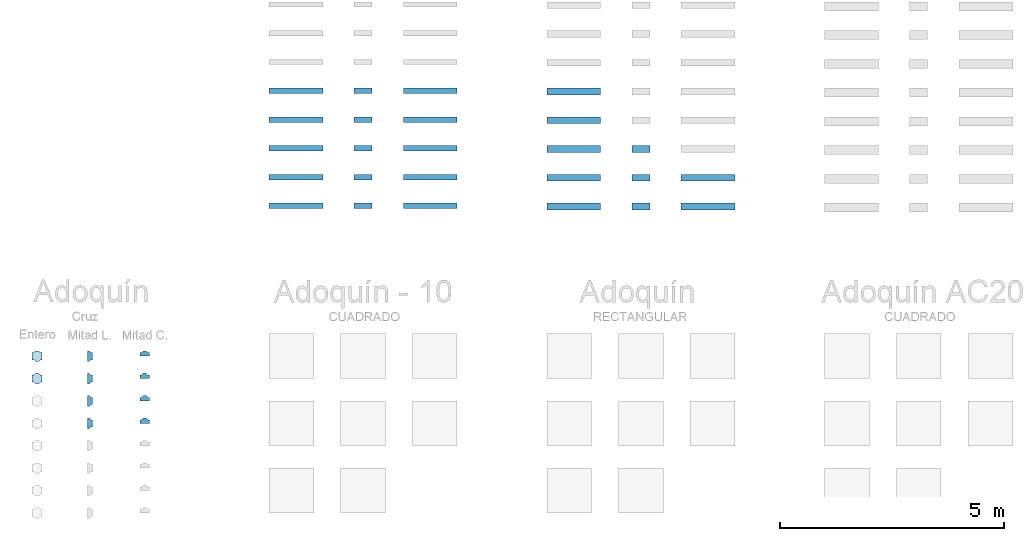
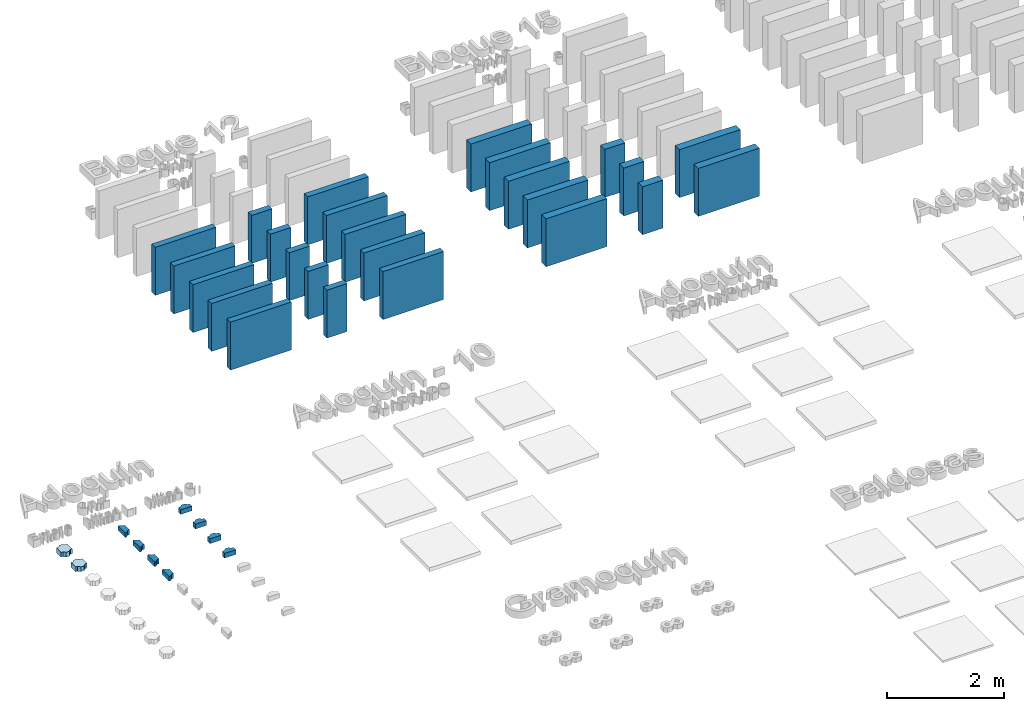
# One storey, part 3 of 19: 25 walls, 10 slabs.
"""IFC2X3 building model written with IfcOpenShell, lengths in metres."""

from ifc_helpers import new_model, entity, si_unit, converted_unit, derived_unit, direction, frame, frame_2d, origin, place, context, subcontext, project, spatial, polyline, rectangle, outline, extrude, material, layer, layer_set, layer_usage, type_object, element, save


model = new_model("IFC2X3")

# Units and contexts
model_context = context("Model", 3, precision=1e-05, world=origin(), true_north=direction((6.12303176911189e-17, 1.0)))
body_context = subcontext(model_context, "Body", "Model", "MODEL_VIEW")
ifc_project = project(units=[si_unit("LENGTHUNIT", "METRE"), si_unit("AREAUNIT", "SQUARE_METRE"), si_unit("VOLUMEUNIT", "CUBIC_METRE"), converted_unit("PLANEANGLEUNIT", "DEGREE", entity("IfcRatioMeasure", 0.0174532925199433), si_unit("PLANEANGLEUNIT", "RADIAN"), dimensions=[0, 0, 0, 0, 0, 0, 0]), si_unit("MASSUNIT", "GRAM", prefix="KILO"), derived_unit("MASSDENSITYUNIT", [(si_unit("MASSUNIT", "GRAM", prefix="KILO"), 1), (si_unit("LENGTHUNIT", "METRE"), -3)]), derived_unit("MOMENTOFINERTIAUNIT", [(si_unit("LENGTHUNIT", "METRE"), 4)]), si_unit("TIMEUNIT", "SECOND"), si_unit("FREQUENCYUNIT", "HERTZ"), si_unit("THERMODYNAMICTEMPERATUREUNIT", "DEGREE_CELSIUS"), derived_unit("THERMALTRANSMITTANCEUNIT", [(si_unit("MASSUNIT", "GRAM", prefix="KILO"), 1), (si_unit("THERMODYNAMICTEMPERATUREUNIT", "KELVIN"), -1), (si_unit("TIMEUNIT", "SECOND"), -3)]), derived_unit("VOLUMETRICFLOWRATEUNIT", [(si_unit("LENGTHUNIT", "METRE"), 3), (si_unit("TIMEUNIT", "SECOND"), -1)]), si_unit("ELECTRICCURRENTUNIT", "AMPERE"), si_unit("ELECTRICVOLTAGEUNIT", "VOLT"), si_unit("POWERUNIT", "WATT"), si_unit("FORCEUNIT", "NEWTON", prefix="KILO"), si_unit("ILLUMINANCEUNIT", "LUX"), si_unit("LUMINOUSFLUXUNIT", "LUMEN"), si_unit("LUMINOUSINTENSITYUNIT", "CANDELA"), derived_unit("USERDEFINED", [(si_unit("MASSUNIT", "GRAM", prefix="KILO"), -1), (si_unit("LENGTHUNIT", "METRE"), -2), (si_unit("TIMEUNIT", "SECOND"), 3), (si_unit("LUMINOUSFLUXUNIT", "LUMEN"), 1)]), derived_unit("LINEARVELOCITYUNIT", [(si_unit("LENGTHUNIT", "METRE"), 1), (si_unit("TIMEUNIT", "SECOND"), -1)]), si_unit("PRESSUREUNIT", "PASCAL"), derived_unit("USERDEFINED", [(si_unit("LENGTHUNIT", "METRE"), -2), (si_unit("MASSUNIT", "GRAM", prefix="KILO"), 1), (si_unit("TIMEUNIT", "SECOND"), -2)]), derived_unit("LINEARFORCEUNIT", [(si_unit("MASSUNIT", "GRAM", prefix="KILO"), 1), (si_unit("LENGTHUNIT", "METRE"), 1), (si_unit("TIMEUNIT", "SECOND"), -2), (si_unit("LENGTHUNIT", "METRE"), -1)]), derived_unit("PLANARFORCEUNIT", [(si_unit("MASSUNIT", "GRAM", prefix="KILO"), 1), (si_unit("LENGTHUNIT", "METRE"), 1), (si_unit("TIMEUNIT", "SECOND"), -2), (si_unit("LENGTHUNIT", "METRE"), -2)])], contexts=[model_context])

# Site, building, storey
site_placement = place(None, origin())
site = spatial("IfcSite", under=ifc_project, at=site_placement, Name="Default", CompositionType="ELEMENT")
building_placement = place(site_placement, origin())
building = spatial("IfcBuilding", under=site, at=building_placement, CompositionType="ELEMENT")
storey_placement = place(building_placement, origin())
storey = spatial("IfcBuildingStorey", under=building, at=storey_placement, Name="Nivel 1", CompositionType="ELEMENT", Elevation=0.0)

# Slabs
ifc_material_1 = material(Name="Adoquín Cruz - Natural")
slab_type_1 = type_object("IfcSlabType", Name="Gramoquín8:Gramoquín", PredefinedType="FLOOR", material=ifc_material_1)
slab_1_placement = place(storey_placement, origin())
element("IfcSlab", 1, at=slab_1_placement, inside=storey, type_object=slab_type_1, Name="Gramoquín8:Gramoquín", ObjectType="Gramoquín8:Gramoquín", PredefinedType="FLOOR", context=body_context, shape_type="SweptSolid", body=[
    extrude(outline(polyline([(-0.0800000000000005, -0.110000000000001), (0.0799999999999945, -0.110000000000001), (0.0799999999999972, -0.0725000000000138), (0.120000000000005, -0.0325000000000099), (0.120000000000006, 0.0325000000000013), (0.0800000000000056, 0.0725000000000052), (0.0800000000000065, 0.109999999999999), (-0.0800000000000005, 0.110000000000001), (-0.0800000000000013, 0.0725000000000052), (-0.120000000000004, 0.0325000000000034), (-0.120000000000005, -0.0325000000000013), (-0.0800000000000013, -0.0725000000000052), (-0.0800000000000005, -0.110000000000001)])), frame((-10.6243147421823, 1.71277312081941, 0.0), z_axis=(0.0, 0.0, 1.0), x_axis=(0.0, -1.0, 0.0)), (0.0, 0.0, 1.0), 0.1),
])
ifc_material_2 = material(Name="Adoquín Cruz - Rosado")
slab_type_2 = type_object("IfcSlabType", Name="Gramoquín9:Gramoquín", PredefinedType="FLOOR", material=ifc_material_2)
slab_2_placement = place(storey_placement, origin())
element("IfcSlab", 2, at=slab_2_placement, inside=storey, type_object=slab_type_2, Name="Gramoquín9:Gramoquín", ObjectType="Gramoquín9:Gramoquín", PredefinedType="FLOOR", context=body_context, shape_type="SweptSolid", body=[
    extrude(outline(polyline([(-0.0800000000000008, -0.110000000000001), (0.0799999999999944, -0.110000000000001), (0.079999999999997, -0.0725000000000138), (0.120000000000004, -0.0325000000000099), (0.120000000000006, 0.0325000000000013), (0.0800000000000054, 0.0725000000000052), (0.0800000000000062, 0.109999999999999), (-0.0800000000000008, 0.110000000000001), (-0.0800000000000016, 0.0725000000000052), (-0.120000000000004, 0.0325000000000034), (-0.120000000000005, -0.0325000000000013), (-0.0800000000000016, -0.0725000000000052), (-0.0800000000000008, -0.110000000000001)])), frame((-10.6243147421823, 1.21277312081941, 0.0), z_axis=(0.0, 0.0, 1.0), x_axis=(0.0, -1.0, 0.0)), (0.0, 0.0, 1.0), 0.1),
])
slab_type_3 = type_object("IfcSlabType", Name="Gramoquín16:Gramoquín", PredefinedType="FLOOR", material=ifc_material_1)
slab_3_placement = place(storey_placement, origin())
element("IfcSlab", 3, at=slab_3_placement, inside=storey, type_object=slab_type_3, Name="Gramoquín16:Gramoquín", ObjectType="Gramoquín16:Gramoquín", PredefinedType="FLOOR", context=body_context, shape_type="SweptSolid", body=[
    extrude(outline(polyline([(-0.0800000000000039, -0.0562499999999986), (0.080000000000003, -0.0562499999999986), (0.0800000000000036, -0.0187500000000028), (0.120000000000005, 0.0212499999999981), (0.120000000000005, 0.0537500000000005), (-0.120000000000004, 0.053750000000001), (-0.120000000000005, 0.0212499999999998), (-0.0800000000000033, -0.0187500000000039), (-0.0800000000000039, -0.0562499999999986)])), frame((-9.44048319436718, 1.71277312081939, 0.0), z_axis=(0.0, 0.0, 1.0), x_axis=(0.0, 1.0, 0.0)), (0.0, 0.0, 1.0), 0.1),
])
slab_type_4 = type_object("IfcSlabType", Name="Gramoquín24:Gramoquín", PredefinedType="FLOOR", material=ifc_material_1)
slab_4_placement = place(storey_placement, origin())
element("IfcSlab", 4, at=slab_4_placement, inside=storey, type_object=slab_type_4, Name="Gramoquín24:Gramoquín", ObjectType="Gramoquín24:Gramoquín", PredefinedType="FLOOR", context=body_context, shape_type="SweptSolid", body=[
    extrude(outline(polyline([(-0.00999999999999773, -0.110000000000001), (0.0699999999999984, -0.110000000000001), (0.0699999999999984, 0.11), (-0.00999999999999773, 0.11), (-0.00999999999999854, 0.0725000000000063), (-0.0500000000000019, 0.0325000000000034), (-0.0500000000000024, -0.0325000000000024), (-0.00999999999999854, -0.0725000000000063), (-0.00999999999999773, -0.110000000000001)])), frame((-8.2215804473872, 1.78277312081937, 0.0), z_axis=(0.0, 0.0, 1.0), x_axis=(0.0, -1.0, 0.0)), (0.0, 0.0, 1.0), 0.1),
])
slab_type_5 = type_object("IfcSlabType", Name="Gramoquín17:Gramoquín", PredefinedType="FLOOR", material=ifc_material_2)
slab_5_placement = place(storey_placement, origin())
element("IfcSlab", 5, at=slab_5_placement, inside=storey, type_object=slab_type_5, Name="Gramoquín17:Gramoquín", ObjectType="Gramoquín17:Gramoquín", PredefinedType="FLOOR", context=body_context, shape_type="SweptSolid", body=[
    extrude(outline(polyline([(-0.0800000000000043, -0.0562499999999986), (0.0800000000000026, -0.0562499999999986), (0.0800000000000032, -0.0187500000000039), (0.120000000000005, 0.0212499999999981), (0.120000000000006, 0.0537500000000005), (-0.120000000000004, 0.053750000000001), (-0.120000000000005, 0.0212499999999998), (-0.0800000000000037, -0.0187500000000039), (-0.0800000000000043, -0.0562499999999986)])), frame((-9.44048319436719, 1.21277312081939, 0.0), z_axis=(0.0, 0.0, 1.0), x_axis=(0.0, 1.0, 0.0)), (0.0, 0.0, 1.0), 0.1),
])
ifc_material_3 = material(Name="Adoquín Cruz - Rojo")
slab_type_6 = type_object("IfcSlabType", Name="Gramoquín18:Gramoquín", PredefinedType="FLOOR", material=ifc_material_3)
slab_6_placement = place(storey_placement, origin())
element("IfcSlab", 6, at=slab_6_placement, inside=storey, type_object=slab_type_6, Name="Gramoquín18:Gramoquín", ObjectType="Gramoquín18:Gramoquín", PredefinedType="FLOOR", context=body_context, shape_type="SweptSolid", body=[
    extrude(outline(polyline([(-0.0800000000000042, -0.0562499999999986), (0.0800000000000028, -0.0562499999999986), (0.0800000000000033, -0.0187500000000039), (0.120000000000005, 0.0212499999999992), (0.120000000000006, 0.0537500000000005), (-0.120000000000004, 0.053750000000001), (-0.120000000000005, 0.0212499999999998), (-0.0800000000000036, -0.0187500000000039), (-0.0800000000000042, -0.0562499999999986)])), frame((-9.44048319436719, 0.712773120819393, 0.0), z_axis=(0.0, 0.0, 1.0), x_axis=(0.0, 1.0, 0.0)), (0.0, 0.0, 1.0), 0.1),
])
ifc_material_4 = material(Name="Adoquín Cruz - Adobe")
slab_type_7 = type_object("IfcSlabType", Name="Gramoquín19:Gramoquín", PredefinedType="FLOOR", material=ifc_material_4)
slab_7_placement = place(storey_placement, origin())
element("IfcSlab", 7, at=slab_7_placement, inside=storey, type_object=slab_type_7, Name="Gramoquín19:Gramoquín", ObjectType="Gramoquín19:Gramoquín", PredefinedType="FLOOR", context=body_context, shape_type="SweptSolid", body=[
    extrude(outline(polyline([(-0.0800000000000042, -0.0562499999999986), (0.0800000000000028, -0.0562499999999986), (0.0800000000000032, -0.0187500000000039), (0.120000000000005, 0.0212499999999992), (0.120000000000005, 0.0537500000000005), (-0.120000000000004, 0.053750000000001), (-0.120000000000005, 0.0212499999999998), (-0.0800000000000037, -0.0187500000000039), (-0.0800000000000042, -0.0562499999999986)])), frame((-9.4404831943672, 0.212773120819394, 0.0), z_axis=(0.0, 0.0, 1.0), x_axis=(0.0, 1.0, 0.0)), (0.0, 0.0, 1.0), 0.1),
])
slab_type_8 = type_object("IfcSlabType", Name="Gramoquín25:Gramoquín", PredefinedType="FLOOR", material=ifc_material_2)
slab_8_placement = place(storey_placement, origin())
element("IfcSlab", 8, at=slab_8_placement, inside=storey, type_object=slab_type_8, Name="Gramoquín25:Gramoquín", ObjectType="Gramoquín25:Gramoquín", PredefinedType="FLOOR", context=body_context, shape_type="SweptSolid", body=[
    extrude(outline(polyline([(-0.00999999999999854, -0.110000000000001), (0.0699999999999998, -0.110000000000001), (0.0699999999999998, 0.11), (-0.00999999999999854, 0.11), (-0.00999999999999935, 0.0725000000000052), (-0.0500000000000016, 0.0325000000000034), (-0.0500000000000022, -0.0325000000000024), (-0.00999999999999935, -0.0725000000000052), (-0.00999999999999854, -0.110000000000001)])), frame((-8.22158044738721, 1.28277312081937, 0.0), z_axis=(0.0, 0.0, 1.0), x_axis=(0.0, -1.0, 0.0)), (0.0, 0.0, 1.0), 0.1),
])
slab_type_9 = type_object("IfcSlabType", Name="Gramoquín26:Gramoquín", PredefinedType="FLOOR", material=ifc_material_3)
slab_9_placement = place(storey_placement, origin())
element("IfcSlab", 9, at=slab_9_placement, inside=storey, type_object=slab_type_9, Name="Gramoquín26:Gramoquín", ObjectType="Gramoquín26:Gramoquín", PredefinedType="FLOOR", context=body_context, shape_type="SweptSolid", body=[
    extrude(outline(polyline([(-0.00999999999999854, -0.110000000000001), (0.0699999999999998, -0.110000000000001), (0.0699999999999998, 0.11), (-0.00999999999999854, 0.11), (-0.00999999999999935, 0.0725000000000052), (-0.0500000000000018, 0.0325000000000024), (-0.0500000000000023, -0.0325000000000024), (-0.00999999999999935, -0.0725000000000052), (-0.00999999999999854, -0.110000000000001)])), frame((-8.22158044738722, 0.782773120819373, 0.0), z_axis=(0.0, 0.0, 1.0), x_axis=(0.0, -1.0, 0.0)), (0.0, 0.0, 1.0), 0.1),
])
slab_type_10 = type_object("IfcSlabType", Name="Gramoquín27:Gramoquín", PredefinedType="FLOOR", material=ifc_material_4)
slab_10_placement = place(storey_placement, origin())
element("IfcSlab", 10, at=slab_10_placement, inside=storey, type_object=slab_type_10, Name="Gramoquín27:Gramoquín", ObjectType="Gramoquín27:Gramoquín", PredefinedType="FLOOR", context=body_context, shape_type="SweptSolid", body=[
    extrude(outline(polyline([(-0.00999999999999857, -0.110000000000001), (0.0699999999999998, -0.110000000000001), (0.0699999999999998, 0.11), (-0.00999999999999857, 0.11), (-0.00999999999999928, 0.0725000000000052), (-0.0500000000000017, 0.0325000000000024), (-0.0500000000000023, -0.0325000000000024), (-0.00999999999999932, -0.0725000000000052), (-0.00999999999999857, -0.110000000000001)])), frame((-8.22158044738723, 0.282773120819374, 0.0), z_axis=(0.0, 0.0, 1.0), x_axis=(0.0, -1.0, 0.0)), (0.0, 0.0, 1.0), 0.1),
])

# Walls
ifc_material_5 = material(Name="Bloque - Adobe")
ifc_layer_1 = layer(ifc_material_5, 0.12)
ifc_layer_set_1 = layer_set([ifc_layer_1], Name="Muro básico:Bloque 12 / Fachada - Adobe")
ifc_layer_usage_1 = layer_usage(ifc_layer_set_1, "AXIS2", "NEGATIVE", 0.06)
wall_type_1 = type_object("IfcWallType", Name="Muro básico:Bloque 12 / Fachada - Adobe", PredefinedType="STANDARD", material=ifc_layer_set_1)
wall_1_placement = place(storey_placement, frame((-5.44851232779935, 7.63523949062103, 0.0)))
element("IfcWallStandardCase", 11, at=wall_1_placement, inside=storey, type_object=wall_type_1, material=ifc_layer_usage_1, Name="Muro básico:Bloque 12 / Fachada - Adobe", ObjectType="Muro básico:Bloque 12 / Fachada - Adobe", context=body_context, shape_type="SweptSolid", body=[
    extrude(rectangle(XDim=1.2, YDim=0.120000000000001, at=frame_2d((0.6, 2.4980018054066e-16), x_axis=(-1.0, 0.0))), origin(), (0.0, 0.0, 1.0), 1.0),
])
ifc_material_6 = material(Name="Bloque - Amarillo")
ifc_layer_2 = layer(ifc_material_6, 0.12)
ifc_layer_set_2 = layer_set([ifc_layer_2], Name="Muro básico:Bloque 12 / Fachada - Amarillo")
ifc_layer_usage_2 = layer_usage(ifc_layer_set_2, "AXIS2", "NEGATIVE", 0.06)
wall_type_2 = type_object("IfcWallType", Name="Muro básico:Bloque 12 / Fachada - Amarillo", PredefinedType="STANDARD", material=ifc_layer_set_2)
wall_2_placement = place(storey_placement, frame((-5.44851232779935, 6.99336009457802, 0.0)))
element("IfcWallStandardCase", 12, at=wall_2_placement, inside=storey, type_object=wall_type_2, material=ifc_layer_usage_2, Name="Muro básico:Bloque 12 / Fachada - Amarillo", ObjectType="Muro básico:Bloque 12 / Fachada - Amarillo", context=body_context, shape_type="SweptSolid", body=[
    extrude(rectangle(XDim=1.2, YDim=0.120000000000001, at=frame_2d((0.6, 2.4980018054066e-16), x_axis=(-1.0, 0.0))), origin(), (0.0, 0.0, 1.0), 1.0),
])
ifc_material_7 = material(Name="Bloque - Gris")
ifc_layer_3 = layer(ifc_material_7, 0.12)
ifc_layer_set_3 = layer_set([ifc_layer_3], Name="Muro básico:Bloque 12 / Fachada - Gris")
ifc_layer_usage_3 = layer_usage(ifc_layer_set_3, "AXIS2", "NEGATIVE", 0.06)
wall_type_3 = type_object("IfcWallType", Name="Muro básico:Bloque 12 / Fachada - Gris", PredefinedType="STANDARD", material=ifc_layer_set_3)
wall_3_placement = place(storey_placement, frame((-5.44851232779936, 6.35148069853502, 0.0)))
element("IfcWallStandardCase", 13, at=wall_3_placement, inside=storey, type_object=wall_type_3, material=ifc_layer_usage_3, Name="Muro básico:Bloque 12 / Fachada - Gris", ObjectType="Muro básico:Bloque 12 / Fachada - Gris", context=body_context, shape_type="SweptSolid", body=[
    extrude(rectangle(XDim=1.2, YDim=0.120000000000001, at=frame_2d((0.6, 2.4980018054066e-16), x_axis=(-1.0, 0.0))), origin(), (0.0, 0.0, 1.0), 1.0),
])
ifc_material_8 = material(Name="Bloque - Chocolate")
ifc_layer_4 = layer(ifc_material_8, 0.12)
ifc_layer_set_4 = layer_set([ifc_layer_4], Name="Muro básico:Bloque 12 / Fachada - Chocolate")
ifc_layer_usage_4 = layer_usage(ifc_layer_set_4, "AXIS2", "NEGATIVE", 0.06)
wall_type_4 = type_object("IfcWallType", Name="Muro básico:Bloque 12 / Fachada - Chocolate", PredefinedType="STANDARD", material=ifc_layer_set_4)
wall_4_placement = place(storey_placement, frame((-5.44851232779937, 5.70960130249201, 0.0)))
element("IfcWallStandardCase", 14, at=wall_4_placement, inside=storey, type_object=wall_type_4, material=ifc_layer_usage_4, Name="Muro básico:Bloque 12 / Fachada - Chocolate", ObjectType="Muro básico:Bloque 12 / Fachada - Chocolate", context=body_context, shape_type="SweptSolid", body=[
    extrude(rectangle(XDim=1.2, YDim=0.120000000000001, at=frame_2d((0.6, 2.4980018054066e-16), x_axis=(-1.0, 0.0))), origin(), (0.0, 0.0, 1.0), 1.0),
])
ifc_material_9 = material(Name="Bloque - Negro")
ifc_layer_5 = layer(ifc_material_9, 0.12)
ifc_layer_set_5 = layer_set([ifc_layer_5], Name="Muro básico:Bloque 12 / Fachada - Negro")
ifc_layer_usage_5 = layer_usage(ifc_layer_set_5, "AXIS2", "NEGATIVE", 0.06)
wall_type_5 = type_object("IfcWallType", Name="Muro básico:Bloque 12 / Fachada - Negro", PredefinedType="STANDARD", material=ifc_layer_set_5)
wall_5_placement = place(storey_placement, frame((-5.44851232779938, 5.06772190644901, 0.0)))
element("IfcWallStandardCase", 15, at=wall_5_placement, inside=storey, type_object=wall_type_5, material=ifc_layer_usage_5, Name="Muro básico:Bloque 12 / Fachada - Negro", ObjectType="Muro básico:Bloque 12 / Fachada - Negro", context=body_context, shape_type="SweptSolid", body=[
    extrude(rectangle(XDim=1.2, YDim=0.120000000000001, at=frame_2d((0.6, 2.4980018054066e-16), x_axis=(-1.0, 0.0))), origin(), (0.0, 0.0, 1.0), 1.0),
])
ifc_material_10 = material(Name="Bloque (Dado) - Adobe")
ifc_layer_6 = layer(ifc_material_10, 0.12)
ifc_layer_set_6 = layer_set([ifc_layer_6], Name="Muro básico:Bloque 12 (Dado) / Fachada - Adobe")
ifc_layer_usage_6 = layer_usage(ifc_layer_set_6, "AXIS2", "NEGATIVE", 0.06)
wall_type_6 = type_object("IfcWallType", Name="Muro básico:Bloque 12 (Dado) / Fachada - Adobe", PredefinedType="STANDARD", material=ifc_layer_set_6)
wall_6_placement = place(storey_placement, frame((-3.54851232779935, 7.63523949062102, 0.0)))
element("IfcWallStandardCase", 16, at=wall_6_placement, inside=storey, type_object=wall_type_6, material=ifc_layer_usage_6, Name="Muro básico:Bloque 12 (Dado) / Fachada - Adobe", ObjectType="Muro básico:Bloque 12 (Dado) / Fachada - Adobe", context=body_context, shape_type="SweptSolid", body=[
    extrude(rectangle(XDim=0.4, YDim=0.120000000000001, at=frame_2d((0.2, 1.38777878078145e-17), x_axis=(-1.0, 0.0))), origin(), (0.0, 0.0, 1.0), 1.0),
])
ifc_layer_7 = layer(ifc_material_6, 0.12)
ifc_layer_set_7 = layer_set([ifc_layer_7], Name="Muro básico:Bloque 12 (Dado) / Fachada - Amarillo")
ifc_layer_usage_7 = layer_usage(ifc_layer_set_7, "AXIS2", "NEGATIVE", 0.06)
wall_type_7 = type_object("IfcWallType", Name="Muro básico:Bloque 12 (Dado) / Fachada - Amarillo", PredefinedType="STANDARD", material=ifc_layer_set_7)
wall_7_placement = place(storey_placement, frame((-3.54851232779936, 6.99336009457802, 0.0)))
element("IfcWallStandardCase", 17, at=wall_7_placement, inside=storey, type_object=wall_type_7, material=ifc_layer_usage_7, Name="Muro básico:Bloque 12 (Dado) / Fachada - Amarillo", ObjectType="Muro básico:Bloque 12 (Dado) / Fachada - Amarillo", context=body_context, shape_type="SweptSolid", body=[
    extrude(rectangle(XDim=0.4, YDim=0.120000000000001, at=frame_2d((0.2, 1.38777878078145e-17), x_axis=(-1.0, 0.0))), origin(), (0.0, 0.0, 1.0), 1.0),
])
ifc_material_11 = material(Name="Bloque (Dado) - Gris")
ifc_layer_8 = layer(ifc_material_11, 0.12)
ifc_layer_set_8 = layer_set([ifc_layer_8], Name="Muro básico:Bloque 12 (Dado) / Fachada - Gris")
ifc_layer_usage_8 = layer_usage(ifc_layer_set_8, "AXIS2", "NEGATIVE", 0.06)
wall_type_8 = type_object("IfcWallType", Name="Muro básico:Bloque 12 (Dado) / Fachada - Gris", PredefinedType="STANDARD", material=ifc_layer_set_8)
wall_8_placement = place(storey_placement, frame((-3.54851232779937, 6.35148069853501, 0.0)))
element("IfcWallStandardCase", 18, at=wall_8_placement, inside=storey, type_object=wall_type_8, material=ifc_layer_usage_8, Name="Muro básico:Bloque 12 (Dado) / Fachada - Gris", ObjectType="Muro básico:Bloque 12 (Dado) / Fachada - Gris", context=body_context, shape_type="SweptSolid", body=[
    extrude(rectangle(XDim=0.4, YDim=0.120000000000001, at=frame_2d((0.2, 1.38777878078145e-17), x_axis=(-1.0, 0.0))), origin(), (0.0, 0.0, 1.0), 1.0),
])
ifc_material_12 = material(Name="Bloque (Dado) - Chocolate")
ifc_layer_9 = layer(ifc_material_12, 0.12)
ifc_layer_set_9 = layer_set([ifc_layer_9], Name="Muro básico:Bloque 12 (Dado) / Fachada - Chocolate")
ifc_layer_usage_9 = layer_usage(ifc_layer_set_9, "AXIS2", "NEGATIVE", 0.06)
wall_type_9 = type_object("IfcWallType", Name="Muro básico:Bloque 12 (Dado) / Fachada - Chocolate", PredefinedType="STANDARD", material=ifc_layer_set_9)
wall_9_placement = place(storey_placement, frame((-3.54851232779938, 5.70960130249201, 0.0)))
element("IfcWallStandardCase", 19, at=wall_9_placement, inside=storey, type_object=wall_type_9, material=ifc_layer_usage_9, Name="Muro básico:Bloque 12 (Dado) / Fachada - Chocolate", ObjectType="Muro básico:Bloque 12 (Dado) / Fachada - Chocolate", context=body_context, shape_type="SweptSolid", body=[
    extrude(rectangle(XDim=0.4, YDim=0.120000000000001, at=frame_2d((0.2, 1.38777878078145e-17), x_axis=(-1.0, 0.0))), origin(), (0.0, 0.0, 1.0), 1.0),
])
ifc_material_13 = material(Name="Bloque (Dado) - Negro")
ifc_layer_10 = layer(ifc_material_13, 0.12)
ifc_layer_set_10 = layer_set([ifc_layer_10], Name="Muro básico:Bloque 12 (Dado) / Fachada - Negro")
ifc_layer_usage_10 = layer_usage(ifc_layer_set_10, "AXIS2", "NEGATIVE", 0.06)
wall_type_10 = type_object("IfcWallType", Name="Muro básico:Bloque 12 (Dado) / Fachada - Negro", PredefinedType="STANDARD", material=ifc_layer_set_10)
wall_10_placement = place(storey_placement, frame((-3.54851232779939, 5.067721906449, 0.0)))
element("IfcWallStandardCase", 20, at=wall_10_placement, inside=storey, type_object=wall_type_10, material=ifc_layer_usage_10, Name="Muro básico:Bloque 12 (Dado) / Fachada - Negro", ObjectType="Muro básico:Bloque 12 (Dado) / Fachada - Negro", context=body_context, shape_type="SweptSolid", body=[
    extrude(rectangle(XDim=0.4, YDim=0.120000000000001, at=frame_2d((0.2, 1.38777878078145e-17), x_axis=(-1.0, 0.0))), origin(), (0.0, 0.0, 1.0), 1.0),
])
ifc_layer_11 = layer(ifc_material_5, 0.12)
ifc_layer_set_11 = layer_set([ifc_layer_11], Name="Muro básico:Bloque 12 (Solera) / Fachada - Adobe")
ifc_layer_usage_11 = layer_usage(ifc_layer_set_11, "AXIS2", "NEGATIVE", 0.06)
wall_type_11 = type_object("IfcWallType", Name="Muro básico:Bloque 12 (Solera) / Fachada - Adobe", PredefinedType="STANDARD", material=ifc_layer_set_11)
wall_11_placement = place(storey_placement, frame((-2.44851232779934, 7.63523949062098, 0.0)))
element("IfcWallStandardCase", 21, at=wall_11_placement, inside=storey, type_object=wall_type_11, material=ifc_layer_usage_11, Name="Muro básico:Bloque 12 (Solera) / Fachada - Adobe", ObjectType="Muro básico:Bloque 12 (Solera) / Fachada - Adobe", context=body_context, shape_type="SweptSolid", body=[
    extrude(rectangle(XDim=1.2, YDim=0.120000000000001, at=frame_2d((0.600000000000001, 2.4980018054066e-16), x_axis=(-1.0, 0.0))), origin(), (0.0, 0.0, 1.0), 1.0),
])
ifc_layer_12 = layer(ifc_material_6, 0.12)
ifc_layer_set_12 = layer_set([ifc_layer_12], Name="Muro básico:Bloque 12 (Solera) / Fachada - Amarillo")
ifc_layer_usage_12 = layer_usage(ifc_layer_set_12, "AXIS2", "NEGATIVE", 0.06)
wall_type_12 = type_object("IfcWallType", Name="Muro básico:Bloque 12 (Solera) / Fachada - Amarillo", PredefinedType="STANDARD", material=ifc_layer_set_12)
wall_12_placement = place(storey_placement, frame((-2.44851232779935, 6.99336009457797, 0.0)))
element("IfcWallStandardCase", 22, at=wall_12_placement, inside=storey, type_object=wall_type_12, material=ifc_layer_usage_12, Name="Muro básico:Bloque 12 (Solera) / Fachada - Amarillo", ObjectType="Muro básico:Bloque 12 (Solera) / Fachada - Amarillo", context=body_context, shape_type="SweptSolid", body=[
    extrude(rectangle(XDim=1.2, YDim=0.120000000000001, at=frame_2d((0.600000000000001, 2.4980018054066e-16), x_axis=(-1.0, 0.0))), origin(), (0.0, 0.0, 1.0), 1.0),
])
ifc_layer_13 = layer(ifc_material_7, 0.12)
ifc_layer_set_13 = layer_set([ifc_layer_13], Name="Muro básico:Bloque 12 (Solera) / Fachada - Gris")
ifc_layer_usage_13 = layer_usage(ifc_layer_set_13, "AXIS2", "NEGATIVE", 0.06)
wall_type_13 = type_object("IfcWallType", Name="Muro básico:Bloque 12 (Solera) / Fachada - Gris", PredefinedType="STANDARD", material=ifc_layer_set_13)
wall_13_placement = place(storey_placement, frame((-2.44851232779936, 6.35148069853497, 0.0)))
element("IfcWallStandardCase", 23, at=wall_13_placement, inside=storey, type_object=wall_type_13, material=ifc_layer_usage_13, Name="Muro básico:Bloque 12 (Solera) / Fachada - Gris", ObjectType="Muro básico:Bloque 12 (Solera) / Fachada - Gris", context=body_context, shape_type="SweptSolid", body=[
    extrude(rectangle(XDim=1.2, YDim=0.120000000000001, at=frame_2d((0.600000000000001, 2.4980018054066e-16), x_axis=(-1.0, 0.0))), origin(), (0.0, 0.0, 1.0), 1.0),
])
ifc_layer_14 = layer(ifc_material_8, 0.12)
ifc_layer_set_14 = layer_set([ifc_layer_14], Name="Muro básico:Bloque 12 (Solera) / Fachada - Chocolate")
ifc_layer_usage_14 = layer_usage(ifc_layer_set_14, "AXIS2", "NEGATIVE", 0.06)
wall_type_14 = type_object("IfcWallType", Name="Muro básico:Bloque 12 (Solera) / Fachada - Chocolate", PredefinedType="STANDARD", material=ifc_layer_set_14)
wall_14_placement = place(storey_placement, frame((-2.44851232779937, 5.70960130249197, 0.0)))
element("IfcWallStandardCase", 24, at=wall_14_placement, inside=storey, type_object=wall_type_14, material=ifc_layer_usage_14, Name="Muro básico:Bloque 12 (Solera) / Fachada - Chocolate", ObjectType="Muro básico:Bloque 12 (Solera) / Fachada - Chocolate", context=body_context, shape_type="SweptSolid", body=[
    extrude(rectangle(XDim=1.2, YDim=0.120000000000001, at=frame_2d((0.600000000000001, 2.4980018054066e-16), x_axis=(-1.0, 0.0))), origin(), (0.0, 0.0, 1.0), 1.0),
])
ifc_layer_15 = layer(ifc_material_9, 0.12)
ifc_layer_set_15 = layer_set([ifc_layer_15], Name="Muro básico:Bloque 12 (Solera) / Fachada - Negro")
ifc_layer_usage_15 = layer_usage(ifc_layer_set_15, "AXIS2", "NEGATIVE", 0.06)
wall_type_15 = type_object("IfcWallType", Name="Muro básico:Bloque 12 (Solera) / Fachada - Negro", PredefinedType="STANDARD", material=ifc_layer_set_15)
wall_15_placement = place(storey_placement, frame((-2.44851232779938, 5.06772190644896, 0.0)))
element("IfcWallStandardCase", 25, at=wall_15_placement, inside=storey, type_object=wall_type_15, material=ifc_layer_usage_15, Name="Muro básico:Bloque 12 (Solera) / Fachada - Negro", ObjectType="Muro básico:Bloque 12 (Solera) / Fachada - Negro", context=body_context, shape_type="SweptSolid", body=[
    extrude(rectangle(XDim=1.2, YDim=0.120000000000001, at=frame_2d((0.600000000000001, 2.4980018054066e-16), x_axis=(-1.0, 0.0))), origin(), (0.0, 0.0, 1.0), 1.0),
])
ifc_layer_16 = layer(ifc_material_5, 0.15)
ifc_layer_set_16 = layer_set([ifc_layer_16], Name="Muro básico:Bloque 15 / Fachada - Adobe")
ifc_layer_usage_16 = layer_usage(ifc_layer_set_16, "AXIS2", "NEGATIVE", 0.075)
wall_type_16 = type_object("IfcWallType", Name="Muro básico:Bloque 15 / Fachada - Adobe", PredefinedType="STANDARD", material=ifc_layer_set_16)
wall_16_placement = place(storey_placement, frame((0.751487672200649, 7.62023949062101, 0.0)))
element("IfcWallStandardCase", 26, at=wall_16_placement, inside=storey, type_object=wall_type_16, material=ifc_layer_usage_16, Name="Muro básico:Bloque 15 / Fachada - Adobe", ObjectType="Muro básico:Bloque 15 / Fachada - Adobe", context=body_context, shape_type="SweptSolid", body=[
    extrude(rectangle(XDim=1.2, YDim=0.150000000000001, at=frame_2d((0.6, 4.16333634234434e-17), x_axis=(-1.0, 0.0))), origin(), (0.0, 0.0, 1.0), 1.0),
])
ifc_layer_17 = layer(ifc_material_6, 0.15)
ifc_layer_set_17 = layer_set([ifc_layer_17], Name="Muro básico:Bloque 15 / Fachada - Amarillo")
ifc_layer_usage_17 = layer_usage(ifc_layer_set_17, "AXIS2", "NEGATIVE", 0.075)
wall_type_17 = type_object("IfcWallType", Name="Muro básico:Bloque 15 / Fachada - Amarillo", PredefinedType="STANDARD", material=ifc_layer_set_17)
wall_17_placement = place(storey_placement, frame((0.75148767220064, 6.978360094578, 0.0)))
element("IfcWallStandardCase", 27, at=wall_17_placement, inside=storey, type_object=wall_type_17, material=ifc_layer_usage_17, Name="Muro básico:Bloque 15 / Fachada - Amarillo", ObjectType="Muro básico:Bloque 15 / Fachada - Amarillo", context=body_context, shape_type="SweptSolid", body=[
    extrude(rectangle(XDim=1.2, YDim=0.150000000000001, at=frame_2d((0.6, 4.16333634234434e-17), x_axis=(-1.0, 0.0))), origin(), (0.0, 0.0, 1.0), 1.0),
])
ifc_layer_18 = layer(ifc_material_7, 0.15)
ifc_layer_set_18 = layer_set([ifc_layer_18], Name="Muro básico:Bloque 15 / Fachada - Gris")
ifc_layer_usage_18 = layer_usage(ifc_layer_set_18, "AXIS2", "NEGATIVE", 0.075)
wall_type_18 = type_object("IfcWallType", Name="Muro básico:Bloque 15 / Fachada - Gris", PredefinedType="STANDARD", material=ifc_layer_set_18)
wall_18_placement = place(storey_placement, frame((0.751487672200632, 6.336480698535, 0.0)))
element("IfcWallStandardCase", 28, at=wall_18_placement, inside=storey, type_object=wall_type_18, material=ifc_layer_usage_18, Name="Muro básico:Bloque 15 / Fachada - Gris", ObjectType="Muro básico:Bloque 15 / Fachada - Gris", context=body_context, shape_type="SweptSolid", body=[
    extrude(rectangle(XDim=1.2, YDim=0.150000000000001, at=frame_2d((0.6, 4.16333634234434e-17), x_axis=(-1.0, 0.0))), origin(), (0.0, 0.0, 1.0), 1.0),
])
ifc_layer_19 = layer(ifc_material_8, 0.15)
ifc_layer_set_19 = layer_set([ifc_layer_19], Name="Muro básico:Bloque 15 / Fachada - Chocolate")
ifc_layer_usage_19 = layer_usage(ifc_layer_set_19, "AXIS2", "NEGATIVE", 0.075)
wall_type_19 = type_object("IfcWallType", Name="Muro básico:Bloque 15 / Fachada - Chocolate", PredefinedType="STANDARD", material=ifc_layer_set_19)
wall_19_placement = place(storey_placement, frame((0.751487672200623, 5.69460130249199, 0.0)))
element("IfcWallStandardCase", 29, at=wall_19_placement, inside=storey, type_object=wall_type_19, material=ifc_layer_usage_19, Name="Muro básico:Bloque 15 / Fachada - Chocolate", ObjectType="Muro básico:Bloque 15 / Fachada - Chocolate", context=body_context, shape_type="SweptSolid", body=[
    extrude(rectangle(XDim=1.2, YDim=0.150000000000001, at=frame_2d((0.6, 4.16333634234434e-17), x_axis=(-1.0, 0.0))), origin(), (0.0, 0.0, 1.0), 1.0),
])
ifc_layer_20 = layer(ifc_material_9, 0.15)
ifc_layer_set_20 = layer_set([ifc_layer_20], Name="Muro básico:Bloque 15 / Fachada - Negro")
ifc_layer_usage_20 = layer_usage(ifc_layer_set_20, "AXIS2", "NEGATIVE", 0.075)
wall_type_20 = type_object("IfcWallType", Name="Muro básico:Bloque 15 / Fachada - Negro", PredefinedType="STANDARD", material=ifc_layer_set_20)
wall_20_placement = place(storey_placement, frame((0.751487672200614, 5.05272190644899, 0.0)))
element("IfcWallStandardCase", 30, at=wall_20_placement, inside=storey, type_object=wall_type_20, material=ifc_layer_usage_20, Name="Muro básico:Bloque 15 / Fachada - Negro", ObjectType="Muro básico:Bloque 15 / Fachada - Negro", context=body_context, shape_type="SweptSolid", body=[
    extrude(rectangle(XDim=1.2, YDim=0.150000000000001, at=frame_2d((0.6, 4.16333634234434e-17), x_axis=(-1.0, 0.0))), origin(), (0.0, 0.0, 1.0), 1.0),
])
ifc_layer_21 = layer(ifc_material_11, 0.15)
ifc_layer_set_21 = layer_set([ifc_layer_21], Name="Muro básico:Bloque 15 (Dado) / Fachada - Gris")
ifc_layer_usage_21 = layer_usage(ifc_layer_set_21, "AXIS2", "NEGATIVE", 0.075)
wall_type_21 = type_object("IfcWallType", Name="Muro básico:Bloque 15 (Dado) / Fachada - Gris", PredefinedType="STANDARD", material=ifc_layer_set_21)
wall_21_placement = place(storey_placement, frame((2.65148767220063, 6.33648069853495, 0.0)))
element("IfcWallStandardCase", 31, at=wall_21_placement, inside=storey, type_object=wall_type_21, material=ifc_layer_usage_21, Name="Muro básico:Bloque 15 (Dado) / Fachada - Gris", ObjectType="Muro básico:Bloque 15 (Dado) / Fachada - Gris", context=body_context, shape_type="SweptSolid", body=[
    extrude(rectangle(XDim=0.4, YDim=0.150000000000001, at=frame_2d((0.2, 1.38777878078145e-17), x_axis=(-1.0, 0.0))), origin(), (0.0, 0.0, 1.0), 1.0),
])
ifc_layer_22 = layer(ifc_material_12, 0.15)
ifc_layer_set_22 = layer_set([ifc_layer_22], Name="Muro básico:Bloque 15 (Dado) / Fachada - Chocolate")
ifc_layer_usage_22 = layer_usage(ifc_layer_set_22, "AXIS2", "NEGATIVE", 0.075)
wall_type_22 = type_object("IfcWallType", Name="Muro básico:Bloque 15 (Dado) / Fachada - Chocolate", PredefinedType="STANDARD", material=ifc_layer_set_22)
wall_22_placement = place(storey_placement, frame((2.65148767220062, 5.69460130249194, 0.0)))
element("IfcWallStandardCase", 32, at=wall_22_placement, inside=storey, type_object=wall_type_22, material=ifc_layer_usage_22, Name="Muro básico:Bloque 15 (Dado) / Fachada - Chocolate", ObjectType="Muro básico:Bloque 15 (Dado) / Fachada - Chocolate", context=body_context, shape_type="SweptSolid", body=[
    extrude(rectangle(XDim=0.4, YDim=0.150000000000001, at=frame_2d((0.2, 1.38777878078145e-17), x_axis=(-1.0, 0.0))), origin(), (0.0, 0.0, 1.0), 1.0),
])
ifc_layer_23 = layer(ifc_material_13, 0.15)
ifc_layer_set_23 = layer_set([ifc_layer_23], Name="Muro básico:Bloque 15 (Dado) / Fachada - Negro")
ifc_layer_usage_23 = layer_usage(ifc_layer_set_23, "AXIS2", "NEGATIVE", 0.075)
wall_type_23 = type_object("IfcWallType", Name="Muro básico:Bloque 15 (Dado) / Fachada - Negro", PredefinedType="STANDARD", material=ifc_layer_set_23)
wall_23_placement = place(storey_placement, frame((2.65148767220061, 5.05272190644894, 0.0)))
element("IfcWallStandardCase", 33, at=wall_23_placement, inside=storey, type_object=wall_type_23, material=ifc_layer_usage_23, Name="Muro básico:Bloque 15 (Dado) / Fachada - Negro", ObjectType="Muro básico:Bloque 15 (Dado) / Fachada - Negro", context=body_context, shape_type="SweptSolid", body=[
    extrude(rectangle(XDim=0.4, YDim=0.150000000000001, at=frame_2d((0.2, 1.38777878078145e-17), x_axis=(-1.0, 0.0))), origin(), (0.0, 0.0, 1.0), 1.0),
])
ifc_layer_24 = layer(ifc_material_8, 0.15)
ifc_layer_set_24 = layer_set([ifc_layer_24], Name="Muro básico:Bloque 15 (Solera) / Fachada - Chocolate")
ifc_layer_usage_24 = layer_usage(ifc_layer_set_24, "AXIS2", "NEGATIVE", 0.075)
wall_type_24 = type_object("IfcWallType", Name="Muro básico:Bloque 15 (Solera) / Fachada - Chocolate", PredefinedType="STANDARD", material=ifc_layer_set_24)
wall_24_placement = place(storey_placement, frame((3.75148767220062, 5.69460130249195, 0.0)))
element("IfcWallStandardCase", 34, at=wall_24_placement, inside=storey, type_object=wall_type_24, material=ifc_layer_usage_24, Name="Muro básico:Bloque 15 (Solera) / Fachada - Chocolate", ObjectType="Muro básico:Bloque 15 (Solera) / Fachada - Chocolate", context=body_context, shape_type="SweptSolid", body=[
    extrude(rectangle(XDim=1.2, YDim=0.150000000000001, at=frame_2d((0.6, 4.16333634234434e-17), x_axis=(-1.0, 0.0))), origin(), (0.0, 0.0, 1.0), 1.0),
])
ifc_layer_25 = layer(ifc_material_9, 0.15)
ifc_layer_set_25 = layer_set([ifc_layer_25], Name="Muro básico:Bloque 15 (Solera) / Fachada - Negro")
ifc_layer_usage_25 = layer_usage(ifc_layer_set_25, "AXIS2", "NEGATIVE", 0.075)
wall_type_25 = type_object("IfcWallType", Name="Muro básico:Bloque 15 (Solera) / Fachada - Negro", PredefinedType="STANDARD", material=ifc_layer_set_25)
wall_25_placement = place(storey_placement, frame((3.75148767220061, 5.05272190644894, 0.0)))
element("IfcWallStandardCase", 35, at=wall_25_placement, inside=storey, type_object=wall_type_25, material=ifc_layer_usage_25, Name="Muro básico:Bloque 15 (Solera) / Fachada - Negro", ObjectType="Muro básico:Bloque 15 (Solera) / Fachada - Negro", context=body_context, shape_type="SweptSolid", body=[
    extrude(rectangle(XDim=1.2, YDim=0.150000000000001, at=frame_2d((0.6, 4.16333634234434e-17), x_axis=(-1.0, 0.0))), origin(), (0.0, 0.0, 1.0), 1.0),
])

save(model, "model.ifc")
